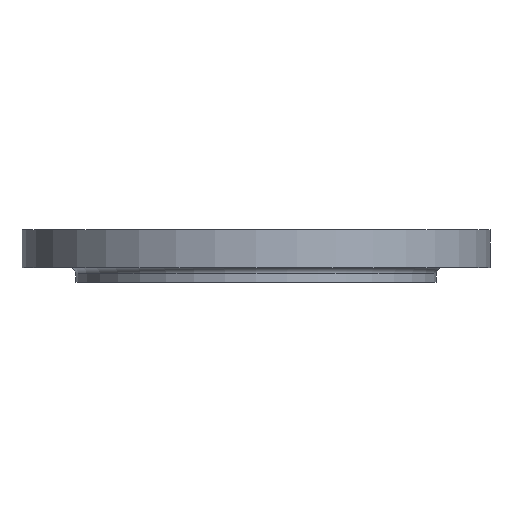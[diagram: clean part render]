
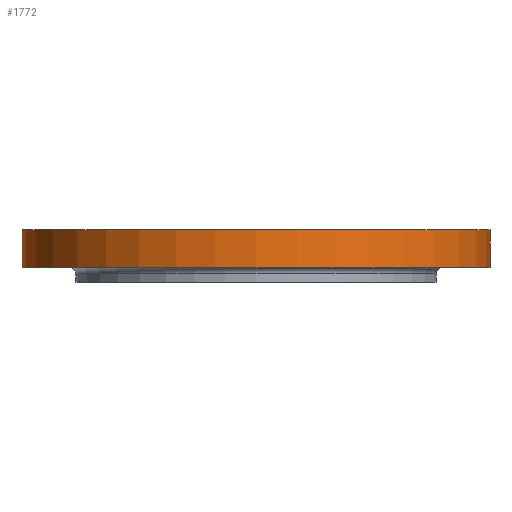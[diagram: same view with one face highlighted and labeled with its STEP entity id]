
A CAD part, front view. The second image highlights one B-rep face of the part: STEP entity #1772.
In plain terms, the highlighted cylindrical face has radius 445 mm (diameter 890 mm), a partial arc.
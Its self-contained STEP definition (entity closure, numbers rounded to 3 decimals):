
#111 = EDGE_CURVE ( 'NONE', #1530, #1442, #1030, .T. ) ;
#158 = EDGE_CURVE ( 'NONE', #1696, #1530, #625, .T. ) ;
#171 = DIRECTION ( 'NONE',  ( 1., 0., 0. ) ) ;
#172 = DIRECTION ( 'NONE',  ( 0., 0., 1. ) ) ;
#173 = CARTESIAN_POINT ( 'NONE',  ( 0., 0., -150. ) ) ;
#174 = CYLINDRICAL_SURFACE ( 'NONE', #1813, 445. ) ;
#178 = FACE_OUTER_BOUND ( 'NONE', #1351, .T. ) ;
#243 = CARTESIAN_POINT ( 'NONE',  ( -445., 0., -72. ) ) ;
#247 = DIRECTION ( 'NONE',  ( 0., 0., 1. ) ) ;
#248 = CARTESIAN_POINT ( 'NONE',  ( -445., 0., -150. ) ) ;
#251 = LINE ( 'NONE', #248, #496 ) ;
#335 = CARTESIAN_POINT ( 'NONE',  ( 445., 0., -72. ) ) ;
#371 = CARTESIAN_POINT ( 'NONE',  ( 445., 0., 0. ) ) ;
#496 = VECTOR ( 'NONE', #247, 1000. ) ;
#501 = DIRECTION ( 'NONE',  ( 1., 0., 0. ) ) ;
#502 = DIRECTION ( 'NONE',  ( 0., 0., 1. ) ) ;
#503 = CARTESIAN_POINT ( 'NONE',  ( 0., 0., 0. ) ) ;
#562 = VECTOR ( 'NONE', #1028, 1000. ) ;
#564 = CARTESIAN_POINT ( 'NONE',  ( -445., 0., 0. ) ) ;
#625 = CIRCLE ( 'NONE', #634, 445. ) ;
#634 = AXIS2_PLACEMENT_3D ( 'NONE', #1019, #1018, #1017 ) ;
#745 = CIRCLE ( 'NONE', #1776, 445. ) ;
#1017 = DIRECTION ( 'NONE',  ( 1., 0., 0. ) ) ;
#1018 = DIRECTION ( 'NONE',  ( 0., 0., 1. ) ) ;
#1019 = CARTESIAN_POINT ( 'NONE',  ( 0., 0., -72. ) ) ;
#1028 = DIRECTION ( 'NONE',  ( 0., 0., 1. ) ) ;
#1029 = CARTESIAN_POINT ( 'NONE',  ( 445., 0., -150. ) ) ;
#1030 = LINE ( 'NONE', #1029, #562 ) ;
#1165 = VERTEX_POINT ( 'NONE', #564 ) ;
#1248 = ORIENTED_EDGE ( 'NONE', *, *, #1294, .F. ) ;
#1249 = ORIENTED_EDGE ( 'NONE', *, *, #111, .T. ) ;
#1252 = ORIENTED_EDGE ( 'NONE', *, *, #158, .T. ) ;
#1253 = ORIENTED_EDGE ( 'NONE', *, *, #1687, .F. ) ;
#1294 = EDGE_CURVE ( 'NONE', #1165, #1442, #745, .T. ) ;
#1351 = EDGE_LOOP ( 'NONE', ( #1253, #1252, #1249, #1248 ) ) ;
#1442 = VERTEX_POINT ( 'NONE', #371 ) ;
#1530 = VERTEX_POINT ( 'NONE', #335 ) ;
#1687 = EDGE_CURVE ( 'NONE', #1696, #1165, #251, .T. ) ;
#1696 = VERTEX_POINT ( 'NONE', #243 ) ;
#1772 = ADVANCED_FACE ( 'NONE', ( #178 ), #174, .T. ) ;
#1776 = AXIS2_PLACEMENT_3D ( 'NONE', #503, #502, #501 ) ;
#1813 = AXIS2_PLACEMENT_3D ( 'NONE', #173, #172, #171 ) ;
